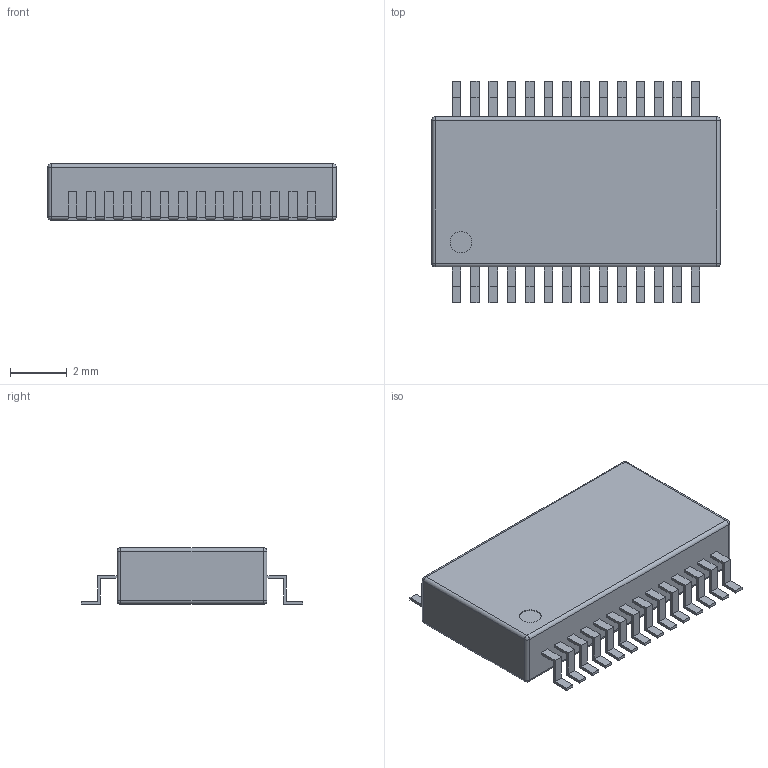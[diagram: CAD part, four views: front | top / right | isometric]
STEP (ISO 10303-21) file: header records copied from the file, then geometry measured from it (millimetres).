
FILE_DESCRIPTION((''),'2;1');
FILE_NAME('DIL-28_10-2X5-3_H2','2011-01-20T',('Markus Horbach'),(''),'PRO/ENGINEER BY PARAMETRIC TECHNOLOGY CORPORATION, 2008230','PRO/ENGINEER BY PARAMETRIC TECHNOLOGY CORPORATION, 2008230','');
FILE_SCHEMA(('AUTOMOTIVE_DESIGN { 1 2 10303 214 0 1 1 1 }'));
Length unit declared in the file: inch
Products named in the file (1): DIL-28_10-2X5-3_H2
Bounding box: 10.2 x 7.84 x 2 mm (x, y, z)
Volume: 109.8 mm3; surface area: 216.1 mm2
Topology: 1 solids, 1 shells, 281 faces, 726 edges, 476 vertices
Faces by surface type: plane 259, cylinder 14, sphere 8
Entity records: 8636 total; most frequent: CARTESIAN_POINT 1484, ORIENTED_EDGE 1452, DIRECTION 1316, EDGE_CURVE 726, VECTOR 698, LINE 698, VERTEX_POINT 476, EDGE_LOOP 310
